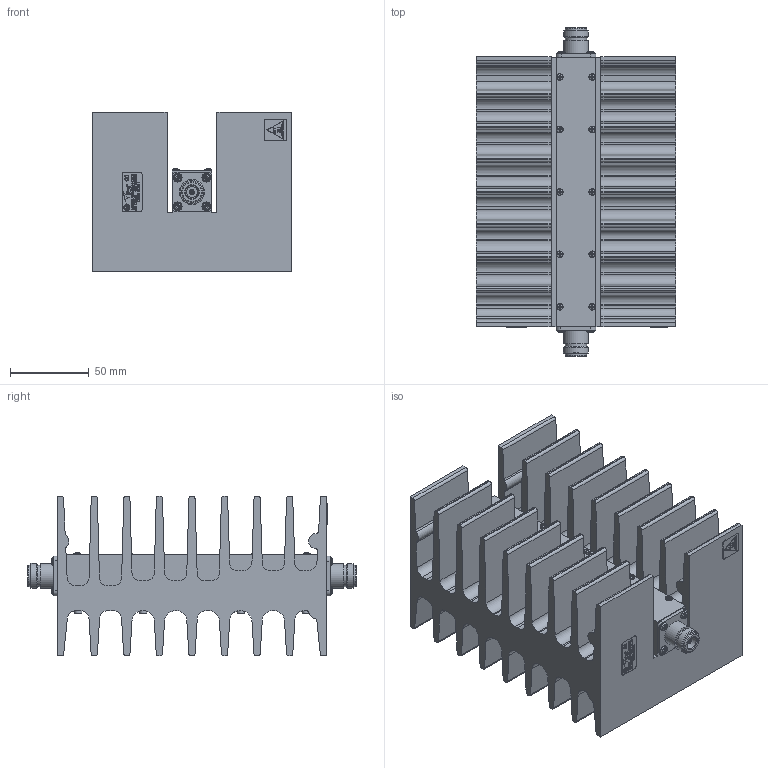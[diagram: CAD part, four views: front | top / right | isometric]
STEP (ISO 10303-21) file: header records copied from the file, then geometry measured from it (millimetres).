
FILE_DESCRIPTION(/* description */ ('Unknown'),/* implementation_level */ '2;1');
FILE_NAME(/* name */ '150-SA-FFN-XX Rev C step',/* time_stamp */ '2020-04-13T09:11:13-04:00',/* author */ ('Unknown'),/* organization */ ('Unknown'),/* preprocessor_version */ 'ST-DEVELOPER v16.7',/* originating_system */ 'Solid Edge',/* authorisation */ 'Unknown');
FILE_SCHEMA (('AUTOMOTIVE_DESIGN {1 0 10303 214 3 1 1}'));
Products named in the file (1): 150-SA-FFN-XX
Bounding box: 127 x 209.04 x 101.6 mm (x, y, z)
Volume: 959365.7 mm3; surface area: 227391.4 mm2
Topology: 1 solids, 1 shells, 1536 faces, 4195 edges, 2783 vertices
Faces by surface type: plane 1074, cylinder 293, bspline 89, cone 40, torus 22, sphere 18
Full cylindrical faces by diameter (mm): 3.307 x4, 4.242 x10, 4.648 x8, 6.35 x8, 6.993 x2, 8.128 x2, 13.462 x4, 15.875 x4
Entity records: 61285 total; most frequent: CARTESIAN_POINT 12563, ORIENTED_EDGE 8008, DIRECTION 7455, EDGE_CURVE 4004, LINE 2763, VECTOR 2763, VERTEX_POINT 2730, AXIS2_PLACEMENT_3D 2346
